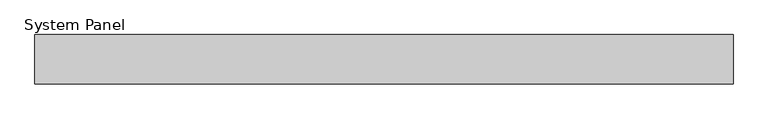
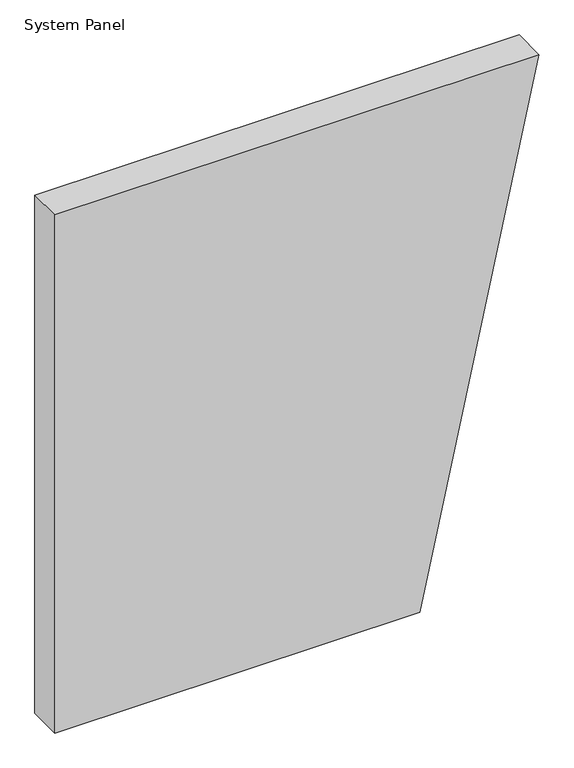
"""IFC4 building model written with IfcOpenShell, lengths in millimetres: plate geometry, System Panel : Equitilt 75mm Horizontal - Plain RHEA - MW."""

from ifc_helpers import new_model, si_unit, frame, origin, place, context, project, spatial, polyline, outline, extrude, source, transform, mapped, element, save


def system_panel_61ef77c3(model_context):
    return source(origin(), model_context, "Body", "SweptSolid", [
        extrude(outline(polyline([(0.0, -530.4358309), (0.0, 269.5641691), (1200.0, 530.4358309), (1200.0, -530.4358309), (0.0, -530.4358309)])), frame((0.0, -75.0, 0.0), z_axis=(0.0, 1.0, 0.0), x_axis=(0.0, 0.0, 1.0)), (0.0, 0.0, 1.0), 75.0),
    ])


if __name__ == "__main__":
    model = new_model("IFC4")
    model_context = context("Model", 3, world=origin())
    ifc_project = project(units=[si_unit("LENGTHUNIT", "METRE", prefix="MILLI")], contexts=[model_context])
    site = spatial("IfcSite", under=ifc_project)
    building = spatial("IfcBuilding", under=site)
    placement = place(None, origin())
    system_panel_shape = system_panel_61ef77c3(model_context)
    element("IfcPlate", 1, ObjectType="System Panel : Equitilt 75mm Horizontal - Plain RHEA - MW", at=placement, inside=building, context=model_context, shape_type="MappedRepresentation", body=[
        mapped(system_panel_shape, transform((0.0, 0.0, 0.0), x_axis=(1.0, 0.0, 0.0), y_axis=(0.0, 1.0, 0.0), z_axis=(0.0, 0.0, 1.0))),
    ])
    save(model, "model.ifc")
